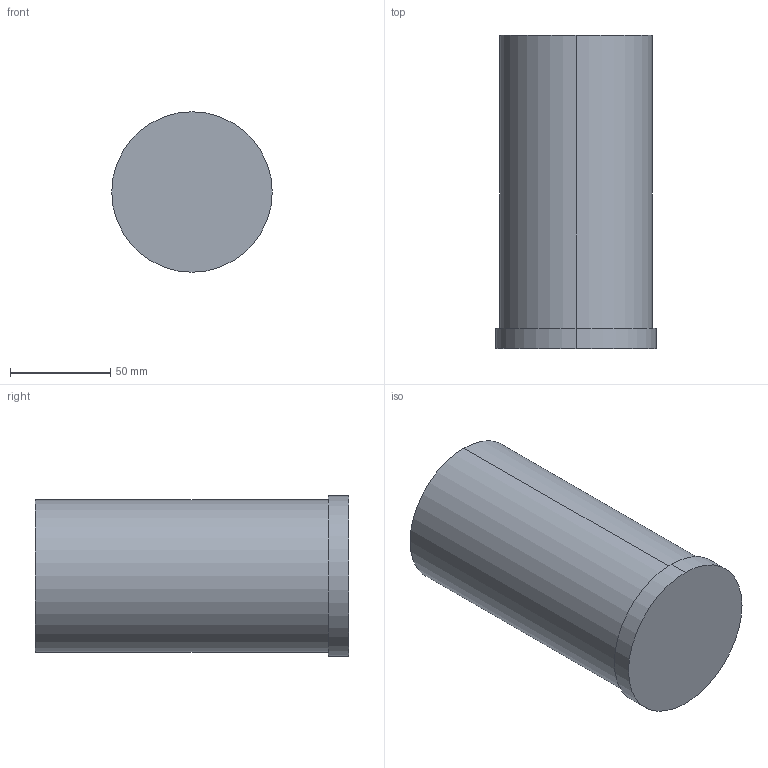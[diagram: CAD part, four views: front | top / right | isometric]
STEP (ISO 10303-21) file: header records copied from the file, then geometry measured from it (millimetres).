
FILE_DESCRIPTION(('STEP AP214'),'1');
FILE_NAME('D:/CSTmws/WiFi2x2.4/WiFi2x2.4.stp','2017-02-01T15:00:31',('Evgeny'),(' '),'Spatial InterOp 3D','CST ACIS InterOp Converter 2009',' ');
FILE_SCHEMA(('automotive_design'));
Length unit declared in the file: millimetre
Products named in the file (11): component1|solid1; component1|solid4; component1|solid5; component1|solid6; component1|solid6.1; component1|solid13; component1|solid15; component1|solid19; component1|solid20; component1|solid4_1; 1
Bounding box: 80 x 156 x 80 mm (x, y, z)
Volume: 65339.3 mm3; surface area: 137023.2 mm2
Topology: 10 solids, 11 shells, 113 faces, 256 edges, 175 vertices
Faces by surface type: cylinder 56, plane 37, torus 20
Entity records: 4424 total; most frequent: DIRECTION 677, CARTESIAN_POINT 546, ORIENTED_EDGE 500, AXIS2_PLACEMENT_3D 297, EDGE_CURVE 250, CIRCLE 173, VERTEX_POINT 166, EDGE_LOOP 124
